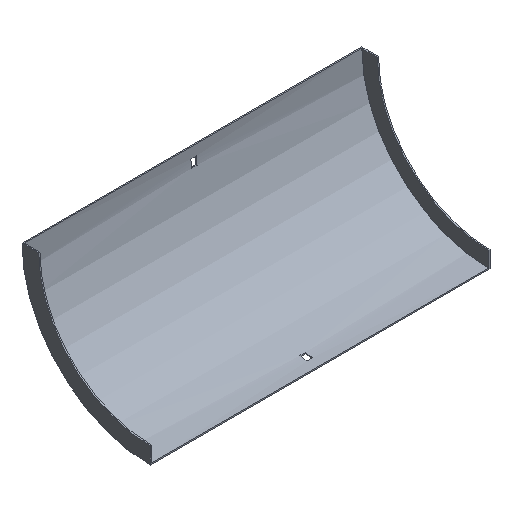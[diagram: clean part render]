
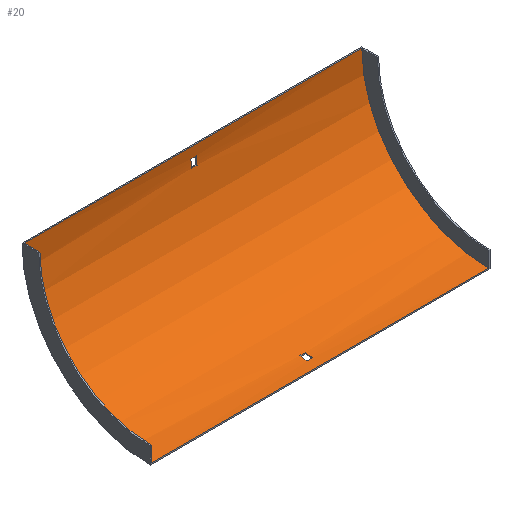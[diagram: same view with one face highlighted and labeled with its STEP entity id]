
A CAD part, isometric view. The second image highlights one B-rep face of the part: STEP entity #20.
In plain terms, the highlighted cylindrical face has radius 152 mm (diameter 304 mm), a partial arc.
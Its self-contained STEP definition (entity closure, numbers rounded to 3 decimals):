
#8 = ORIENTED_EDGE ( 'NONE', *, *, #562, .T. ) ;
#14 = CARTESIAN_POINT ( 'NONE',  ( 3.25, -141.5, -151.526 ) ) ;
#16 = CARTESIAN_POINT ( 'NONE',  ( -3.25, -2.958, -21. ) ) ;
#17 = EDGE_LOOP ( 'NONE', ( #188, #150, #572, #259 ) ) ;
#20 = ADVANCED_FACE ( 'NONE', ( #162, #539, #397 ), #74, .F. ) ;
#22 = CARTESIAN_POINT ( 'NONE',  ( -3.25, -141.5, -151.526 ) ) ;
#23 = DIRECTION ( 'NONE',  ( -1., 0., 0. ) ) ;
#26 = DIRECTION ( 'NONE',  ( -1., 0., 0. ) ) ;
#44 = VECTOR ( 'NONE', #190, 1000. ) ;
#46 = EDGE_CURVE ( 'NONE', #349, #520, #215, .T. ) ;
#47 = VERTEX_POINT ( 'NONE', #16 ) ;
#64 = DIRECTION ( 'NONE',  ( 1., 0., 0. ) ) ;
#65 = DIRECTION ( 'NONE',  ( -1., 0., 0. ) ) ;
#74 = CYLINDRICAL_SURFACE ( 'NONE', #168, 152. ) ;
#76 = DIRECTION ( 'NONE',  ( 0., 0., 1. ) ) ;
#79 = EDGE_CURVE ( 'NONE', #228, #566, #393, .T. ) ;
#92 = EDGE_CURVE ( 'NONE', #163, #349, #513, .T. ) ;
#93 = DIRECTION ( 'NONE',  ( 0., 0., 1. ) ) ;
#95 = LINE ( 'NONE', #285, #392 ) ;
#101 = EDGE_CURVE ( 'NONE', #330, #228, #153, .T. ) ;
#104 = CARTESIAN_POINT ( 'NONE',  ( -3.25, -153.5, 0. ) ) ;
#109 = CIRCLE ( 'NONE', #598, 152. ) ;
#111 = DIRECTION ( 'NONE',  ( 1., 0., 0. ) ) ;
#136 = ORIENTED_EDGE ( 'NONE', *, *, #415, .F. ) ;
#150 = ORIENTED_EDGE ( 'NONE', *, *, #428, .F. ) ;
#153 = CIRCLE ( 'NONE', #412, 152. ) ;
#157 = DIRECTION ( 'NONE',  ( 0., 0., 1. ) ) ;
#161 = CARTESIAN_POINT ( 'NONE',  ( 203.5, -141.5, -151.526 ) ) ;
#162 = FACE_BOUND ( 'NONE', #226, .T. ) ;
#163 = VERTEX_POINT ( 'NONE', #22 ) ;
#168 = AXIS2_PLACEMENT_3D ( 'NONE', #263, #65, #157 ) ;
#180 = CIRCLE ( 'NONE', #260, 152. ) ;
#186 = AXIS2_PLACEMENT_3D ( 'NONE', #533, #111, #351 ) ;
#188 = ORIENTED_EDGE ( 'NONE', *, *, #509, .F. ) ;
#190 = DIRECTION ( 'NONE',  ( -1., 0., 0. ) ) ;
#195 = CARTESIAN_POINT ( 'NONE',  ( 3.25, -2.958, -21. ) ) ;
#199 = LINE ( 'NONE', #436, #511 ) ;
#209 = LINE ( 'NONE', #161, #438 ) ;
#210 = DIRECTION ( 'NONE',  ( 0., 0., -1. ) ) ;
#215 = LINE ( 'NONE', #311, #357 ) ;
#220 = CARTESIAN_POINT ( 'NONE',  ( -3.25, -153.5, 0. ) ) ;
#226 = EDGE_LOOP ( 'NONE', ( #136, #518, #545, #387 ) ) ;
#228 = VERTEX_POINT ( 'NONE', #582 ) ;
#239 = DIRECTION ( 'NONE',  ( -1., 0., 0. ) ) ;
#241 = AXIS2_PLACEMENT_3D ( 'NONE', #220, #411, #210 ) ;
#259 = ORIENTED_EDGE ( 'NONE', *, *, #79, .T. ) ;
#260 = AXIS2_PLACEMENT_3D ( 'NONE', #595, #26, #76 ) ;
#263 = CARTESIAN_POINT ( 'NONE',  ( 203.5, -153.5, 0. ) ) ;
#266 = CARTESIAN_POINT ( 'NONE',  ( 202., -153.5, 0. ) ) ;
#267 = VERTEX_POINT ( 'NONE', #14 ) ;
#270 = CARTESIAN_POINT ( 'NONE',  ( 202., -153.5, -152. ) ) ;
#285 = CARTESIAN_POINT ( 'NONE',  ( 203.5, -2.958, -21. ) ) ;
#310 = DIRECTION ( 'NONE',  ( 0., 0., 1. ) ) ;
#311 = CARTESIAN_POINT ( 'NONE',  ( 203.5, -132.5, -150.542 ) ) ;
#321 = ORIENTED_EDGE ( 'NONE', *, *, #92, .T. ) ;
#330 = VERTEX_POINT ( 'NONE', #270 ) ;
#333 = CARTESIAN_POINT ( 'NONE',  ( 3.25, -1.974, -12. ) ) ;
#335 = ORIENTED_EDGE ( 'NONE', *, *, #46, .T. ) ;
#349 = VERTEX_POINT ( 'NONE', #554 ) ;
#351 = DIRECTION ( 'NONE',  ( 0., 0., -1. ) ) ;
#353 = CIRCLE ( 'NONE', #423, 152. ) ;
#357 = VECTOR ( 'NONE', #443, 1000. ) ;
#359 = CARTESIAN_POINT ( 'NONE',  ( -202., -153.5, 0. ) ) ;
#372 = EDGE_CURVE ( 'NONE', #380, #526, #379, .T. ) ;
#379 = LINE ( 'NONE', #472, #44 ) ;
#380 = VERTEX_POINT ( 'NONE', #333 ) ;
#382 = EDGE_CURVE ( 'NONE', #47, #468, #95, .T. ) ;
#387 = ORIENTED_EDGE ( 'NONE', *, *, #382, .F. ) ;
#389 = CARTESIAN_POINT ( 'NONE',  ( -202., -153.5, -152. ) ) ;
#392 = VECTOR ( 'NONE', #577, 1000. ) ;
#393 = LINE ( 'NONE', #453, #435 ) ;
#397 = FACE_BOUND ( 'NONE', #444, .T. ) ;
#403 = DIRECTION ( 'NONE',  ( -1., 0., 0. ) ) ;
#411 = DIRECTION ( 'NONE',  ( 1., 0., 0. ) ) ;
#412 = AXIS2_PLACEMENT_3D ( 'NONE', #266, #593, #456 ) ;
#415 = EDGE_CURVE ( 'NONE', #526, #47, #353, .T. ) ;
#423 = AXIS2_PLACEMENT_3D ( 'NONE', #104, #565, #93 ) ;
#428 = EDGE_CURVE ( 'NONE', #330, #470, #199, .T. ) ;
#435 = VECTOR ( 'NONE', #403, 1000. ) ;
#436 = CARTESIAN_POINT ( 'NONE',  ( 202., -153.5, -152. ) ) ;
#438 = VECTOR ( 'NONE', #23, 1000. ) ;
#442 = CARTESIAN_POINT ( 'NONE',  ( -202., -1.5, 0. ) ) ;
#443 = DIRECTION ( 'NONE',  ( 1., 0., 0. ) ) ;
#444 = EDGE_LOOP ( 'NONE', ( #8, #321, #335, #586 ) ) ;
#453 = CARTESIAN_POINT ( 'NONE',  ( 202., -1.5, 0. ) ) ;
#456 = DIRECTION ( 'NONE',  ( 0., 0., 1. ) ) ;
#458 = CIRCLE ( 'NONE', #186, 152. ) ;
#468 = VERTEX_POINT ( 'NONE', #195 ) ;
#470 = VERTEX_POINT ( 'NONE', #389 ) ;
#472 = CARTESIAN_POINT ( 'NONE',  ( 203.5, -1.974, -12. ) ) ;
#500 = CARTESIAN_POINT ( 'NONE',  ( 3.25, -132.5, -150.542 ) ) ;
#509 = EDGE_CURVE ( 'NONE', #470, #566, #109, .T. ) ;
#511 = VECTOR ( 'NONE', #239, 1000. ) ;
#513 = CIRCLE ( 'NONE', #241, 152. ) ;
#515 = EDGE_CURVE ( 'NONE', #520, #267, #180, .T. ) ;
#518 = ORIENTED_EDGE ( 'NONE', *, *, #372, .F. ) ;
#520 = VERTEX_POINT ( 'NONE', #500 ) ;
#526 = VERTEX_POINT ( 'NONE', #585 ) ;
#533 = CARTESIAN_POINT ( 'NONE',  ( 3.25, -153.5, 0. ) ) ;
#539 = FACE_OUTER_BOUND ( 'NONE', #17, .T. ) ;
#545 = ORIENTED_EDGE ( 'NONE', *, *, #580, .F. ) ;
#554 = CARTESIAN_POINT ( 'NONE',  ( -3.25, -132.5, -150.542 ) ) ;
#562 = EDGE_CURVE ( 'NONE', #267, #163, #209, .T. ) ;
#565 = DIRECTION ( 'NONE',  ( -1., 0., 0. ) ) ;
#566 = VERTEX_POINT ( 'NONE', #442 ) ;
#572 = ORIENTED_EDGE ( 'NONE', *, *, #101, .T. ) ;
#577 = DIRECTION ( 'NONE',  ( 1., 0., 0. ) ) ;
#580 = EDGE_CURVE ( 'NONE', #468, #380, #458, .T. ) ;
#582 = CARTESIAN_POINT ( 'NONE',  ( 202., -1.5, 0. ) ) ;
#585 = CARTESIAN_POINT ( 'NONE',  ( -3.25, -1.974, -12. ) ) ;
#586 = ORIENTED_EDGE ( 'NONE', *, *, #515, .T. ) ;
#593 = DIRECTION ( 'NONE',  ( 1., 0., 0. ) ) ;
#595 = CARTESIAN_POINT ( 'NONE',  ( 3.25, -153.5, 0. ) ) ;
#598 = AXIS2_PLACEMENT_3D ( 'NONE', #359, #64, #310 ) ;
